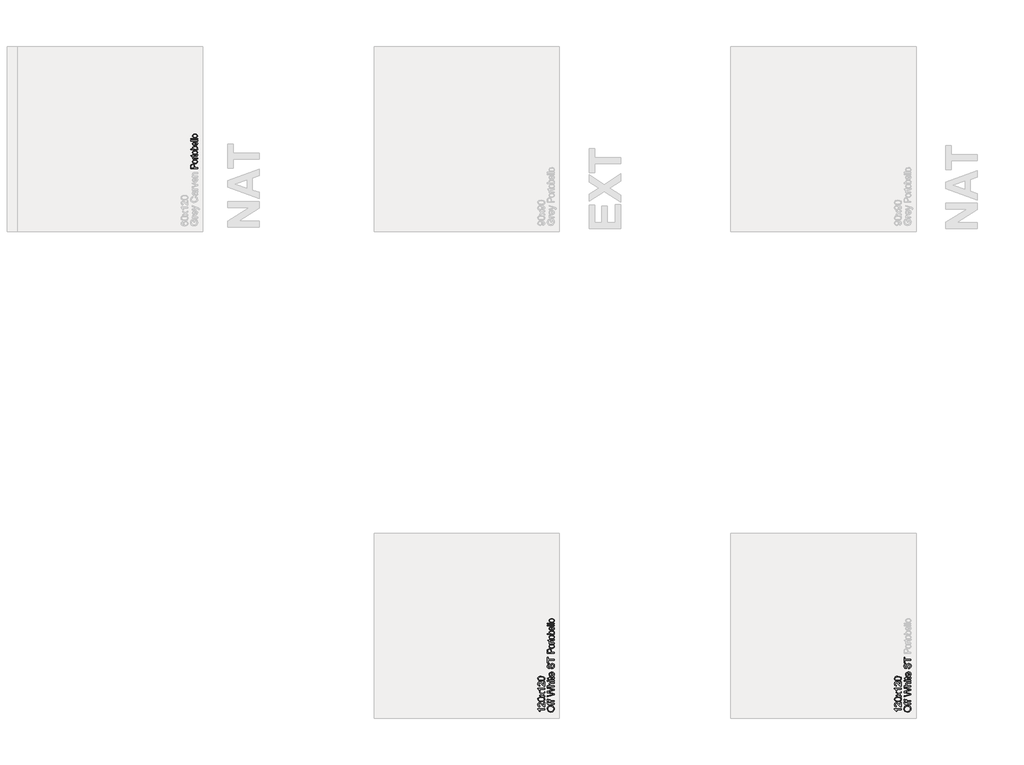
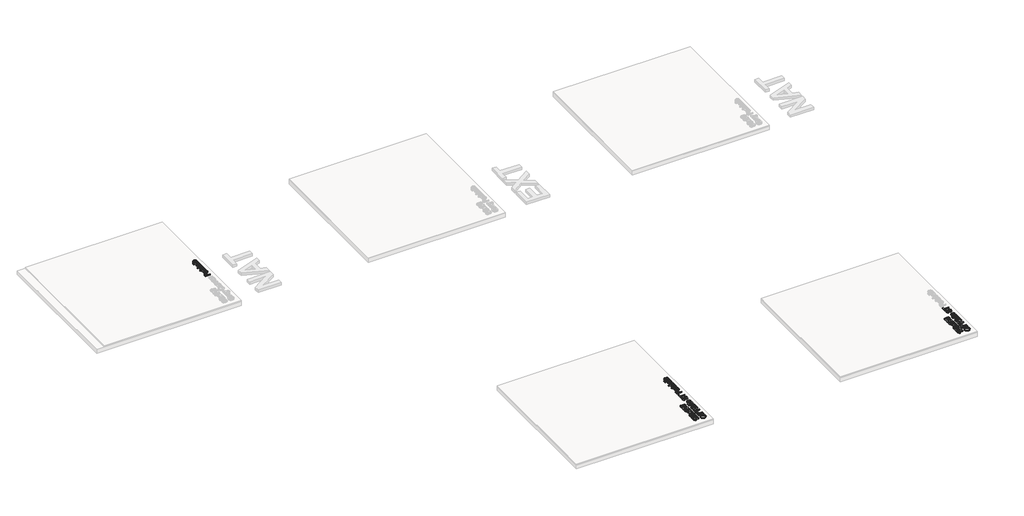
# One storey, part 8 of 12: 6 proxies.
"""IFC4 building model written with IfcOpenShell, lengths in millimetres."""

from ifc_helpers import new_model, si_unit, frame, origin, origin_with_axes, place, context, project, spatial, polyline, outline, extrude, element, save

model = new_model("IFC4")

# Units and contexts
model_context = context("Model", 3, world=origin())
ifc_project = project(units=[si_unit("LENGTHUNIT", "METRE", prefix="MILLI")], contexts=[model_context])

# Site, building, storey
site = spatial("IfcSite", under=ifc_project)
building = spatial("IfcBuilding", under=site)
storey = spatial("IfcBuildingStorey", under=building, Name="PORTOBELLO - SHOWROOM", Elevation=0.0)

# Proxies
placement = place(None, origin())
element("IfcBuildingElementProxy", 1, Name="10mm Arial", ObjectType="10mm Arial", at=placement, inside=storey, context=model_context, shape_type="SweptSolid", body=[
    extrude(outline(polyline([(-5733.4581519, 2943.9024608), (-5755.672093, 2947.250187), (-5772.4781688, 2957.2933654), (-5783.0547762, 2972.6279133), (-5786.580312, 2991.8497475), (-5784.924843, 3005.0260543), (-5779.958436, 3016.8411977), (-5772.030579, 3026.6513843), (-5761.4907599, 3033.8128204), (-5748.847882, 3038.1906162), (-5734.6108488, 3039.6498814), (-5720.1837432, 3038.1139741), (-5707.3630557, 3033.5062521), (-5696.8048424, 3026.0811672), (-5689.1651596, 3016.093171), (-5684.5298465, 3004.3791951), (-5682.9847421, 2991.7761711), (-5684.6923277, 2978.3975292), (-5689.8150845, 2966.5149408), (-5697.8900943, 2956.7292797), (-5708.4544389, 2949.6414199), (-5733.4581519, 2943.9024608)]), holes=[polyline([(-5733.3355245, 2956.4594996), (-5717.620832, 2958.9702942), (-5705.646273, 2966.502678), (-5698.0679039, 2977.8242464), (-5695.5417809, 2991.7025947), (-5698.0924294, 3005.7832781), (-5705.7443749, 3017.1232406), (-5718.0868158, 3024.6004421), (-5734.7089506, 3027.0928427), (-5755.4329697, 3022.8254115), (-5769.1549681, 3010.3542119), (-5774.0232732, 2991.9233239), (-5771.6780255, 2978.4159233), (-5764.6422823, 2966.9318737), (-5752.1250974, 2959.0775931), (-5733.3355245, 2956.4594996)])]), frame((0.0, 0.0, 17.0), z_axis=(0.0, 0.0, 1.0), x_axis=(1.0, 0.0, 0.0)), (0.0, 0.0, 1.0), 20.0),
    extrude(outline(polyline([(-5684.554372, 3099.2958156), (-5745.769936, 3099.2958156), (-5745.769936, 3088.3084066), (-5758.3269747, 3088.3084066), (-5758.3269747, 3099.2958156), (-5765.758191, 3099.2958156), (-5776.2305652, 3100.6201908), (-5783.7108324, 3107.0458629), (-5786.580312, 3119.7010036), (-5785.2068858, 3131.1543964), (-5773.434662, 3129.3149864), (-5774.0232732, 3122.0799738), (-5771.9386085, 3114.1705109), (-5764.1640357, 3111.8528543), (-5758.3269747, 3111.8528543), (-5758.3269747, 3125.979523), (-5745.769936, 3125.979523), (-5745.769936, 3111.8528543), (-5684.554372, 3111.8528543), (-5684.554372, 3099.2958156)])), frame((0.0, 0.0, 17.0), z_axis=(0.0, 0.0, 1.0), x_axis=(1.0, 0.0, 0.0)), (0.0, 0.0, 1.0), 20.0),
    extrude(outline(polyline([(-5684.554372, 3058.4854396), (-5745.769936, 3058.4854396), (-5745.769936, 3047.4980307), (-5758.3269747, 3047.4980307), (-5758.3269747, 3058.4854396), (-5765.758191, 3058.4854396), (-5776.2305652, 3059.8098148), (-5783.7108324, 3066.2354869), (-5786.580312, 3078.8906276), (-5785.2068858, 3090.3440204), (-5773.434662, 3088.5046104), (-5774.0232732, 3081.2695978), (-5771.9386085, 3073.3601349), (-5764.1640357, 3071.0424783), (-5758.3269747, 3071.0424783), (-5758.3269747, 3085.169147), (-5745.769936, 3085.169147), (-5745.769936, 3071.0424783), (-5684.554372, 3071.0424783), (-5684.554372, 3058.4854396)])), frame((0.0, 0.0, 17.0), z_axis=(0.0, 0.0, 1.0), x_axis=(1.0, 0.0, 0.0)), (0.0, 0.0, 1.0), 20.0),
    extrude(outline(polyline([(-5684.554372, 3195.7544747), (-5785.0106821, 3168.3595288), (-5785.0106821, 3181.308975), (-5718.9881267, 3197.2014772), (-5698.6074642, 3202.1065705), (-5716.6336819, 3207.3550203), (-5785.0106821, 3227.269699), (-5785.0106821, 3245.9335788), (-5735.4447146, 3260.403604), (-5698.6074642, 3271.1702837), (-5718.3995155, 3275.9282242), (-5785.0106821, 3291.9433537), (-5785.0106821, 3304.9173254), (-5684.554372, 3277.546905), (-5684.554372, 3264.1069494), (-5762.0548456, 3239.998416), (-5772.8705763, 3236.6384271), (-5759.8475536, 3232.8615053), (-5684.554372, 3210.9112129), (-5684.554372, 3195.7544747)])), frame((0.0, 0.0, 17.0), z_axis=(0.0, 0.0, 1.0), x_axis=(1.0, 0.0, 0.0)), (0.0, 0.0, 1.0), 20.0),
    extrude(outline(polyline([(-5684.554372, 3315.9047343), (-5785.0106821, 3315.9047343), (-5785.0106821, 3328.4617731), (-5748.0753298, 3328.4617731), (-5756.9412859, 3338.2535655), (-5759.8966046, 3350.3139636), (-5756.6715057, 3364.4161068), (-5747.7564987, 3372.9754945), (-5731.2508599, 3375.5506685), (-5684.554372, 3375.5506685), (-5684.554372, 3362.9936297), (-5729.9510102, 3362.9936297), (-5743.194762, 3358.9959787), (-5747.3395658, 3347.6652132), (-5744.5436626, 3337.3767801), (-5736.9652935, 3330.5096495), (-5723.7460672, 3328.4617731), (-5684.554372, 3328.4617731), (-5684.554372, 3315.9047343)])), frame((0.0, 0.0, 17.0), z_axis=(0.0, 0.0, 1.0), x_axis=(1.0, 0.0, 0.0)), (0.0, 0.0, 1.0), 20.0),
    extrude(outline(polyline([(-5772.4536433, 3392.8165968), (-5785.0106821, 3392.8165968), (-5785.0106821, 3405.3736356), (-5772.4536433, 3405.3736356), (-5772.4536433, 3392.8165968)])), frame((0.0, 0.0, 17.0), z_axis=(0.0, 0.0, 1.0), x_axis=(1.0, 0.0, 0.0)), (0.0, 0.0, 1.0), 20.0),
    extrude(outline(polyline([(-5684.554372, 3392.8165968), (-5758.3269747, 3392.8165968), (-5758.3269747, 3405.3736356), (-5684.554372, 3405.3736356), (-5684.554372, 3392.8165968)])), frame((0.0, 0.0, 17.0), z_axis=(0.0, 0.0, 1.0), x_axis=(1.0, 0.0, 0.0)), (0.0, 0.0, 1.0), 20.0),
    extrude(outline(polyline([(-5695.0267461, 3450.8929011), (-5684.18649, 3452.4625309), (-5682.9847421, 3443.0692773), (-5685.0694068, 3432.5478523), (-5690.5385857, 3427.2994025), (-5704.7878817, 3425.7788236), (-5745.769936, 3425.7788236), (-5745.769936, 3416.3610445), (-5758.3269747, 3416.3610445), (-5758.3269747, 3425.7788236), (-5776.2550906, 3425.7788236), (-5783.637256, 3438.3358623), (-5758.3269747, 3438.3358623), (-5758.3269747, 3450.8929011), (-5745.769936, 3450.8929011), (-5745.769936, 3438.3358623), (-5705.1557637, 3438.3358623), (-5698.6810406, 3438.9980499), (-5696.3879095, 3441.1440282), (-5695.5417809, 3445.4237221), (-5695.0267461, 3450.8929011)])), frame((0.0, 0.0, 17.0), z_axis=(0.0, 0.0, 1.0), x_axis=(1.0, 0.0, 0.0)), (0.0, 0.0, 1.0), 20.0),
    extrude(outline(polyline([(-5706.5291898, 3515.100572), (-5704.95956, 3527.4123561), (-5695.6828023, 3522.9763124), (-5688.7482267, 3515.8976496), (-5684.4256133, 3506.3357835), (-5682.9847421, 3494.4501293), (-5685.4710113, 3479.7164554), (-5692.9298187, 3468.3795586), (-5704.8767865, 3461.1506774), (-5720.8275367, 3458.7410503), (-5737.3147814, 3461.1752029), (-5749.6449596, 3468.4776605), (-5757.3336933, 3479.6612731), (-5759.8966046, 3493.7388908), (-5757.3398247, 3507.3781158), (-5749.6694851, 3518.2766199), (-5737.3638324, 3525.4227276), (-5720.9011131, 3527.8047636), (-5717.5165987, 3527.7311872), (-5717.5165987, 3471.2980891), (-5708.1172137, 3473.4716585), (-5701.2071636, 3478.5208389), (-5696.9581266, 3485.8079681), (-5695.5417809, 3494.695384), (-5698.1660058, 3507.0071681), (-5706.5291898, 3515.100572)]), holes=[polyline([(-5730.0736375, 3471.2980891), (-5730.0736375, 3515.2477248), (-5741.4534539, 3510.2200042), (-5745.8680378, 3502.8991525), (-5747.3395658, 3493.6898399), (-5742.642939, 3478.2265333), (-5737.1523002, 3473.361294), (-5730.0736375, 3471.2980891)])]), frame((0.0, 0.0, 17.0), z_axis=(0.0, 0.0, 1.0), x_axis=(1.0, 0.0, 0.0)), (0.0, 0.0, 1.0), 20.0),
    extrude(outline(polyline([(-5719.0862286, 3576.4632888), (-5719.0862286, 3589.0203276), (-5706.5169271, 3593.0670295), (-5698.570676, 3602.9507924), (-5695.5417809, 3618.0094288), (-5697.834912, 3631.1305533), (-5704.1379568, 3639.6041019), (-5712.5624545, 3642.3877423), (-5720.398341, 3640.3030777), (-5726.1005119, 3631.7682154), (-5730.8952406, 3613.4844802), (-5737.0879209, 3593.8027935), (-5746.4321235, 3583.1219529), (-5758.9155859, 3579.6025485), (-5773.1280937, 3583.9558188), (-5783.1590094, 3596.6722731), (-5786.580312, 3615.287102), (-5782.9995939, 3635.1527297), (-5772.4781688, 3648.3964816), (-5756.7573449, 3653.3751512), (-5756.7573449, 3640.8181125), (-5764.2498748, 3638.5127186), (-5769.6577402, 3633.7057272), (-5774.0232732, 3615.7776113), (-5769.7067911, 3597.8004445), (-5759.2834679, 3592.1595872), (-5750.5769274, 3596.1572383), (-5743.562644, 3616.6605281), (-5737.2595991, 3638.8806006), (-5727.0815306, 3651.0329692), (-5712.8812856, 3654.9447811), (-5697.8594375, 3650.444358), (-5686.896554, 3637.4949118), (-5682.9847421, 3618.4999381), (-5687.2031223, 3596.0713991), (-5699.9073139, 3581.8834168), (-5719.0862286, 3576.4632888)])), frame((0.0, 0.0, 17.0), z_axis=(0.0, 0.0, 1.0), x_axis=(1.0, 0.0, 0.0)), (0.0, 0.0, 1.0), 20.0),
    extrude(outline(polyline([(-5684.554372, 3698.8944168), (-5772.4536433, 3698.8944168), (-5772.4536433, 3665.93219), (-5785.0106821, 3665.93219), (-5785.0106821, 3744.4136823), (-5772.4536433, 3744.4136823), (-5772.4536433, 3711.4514555), (-5684.554372, 3711.4514555), (-5684.554372, 3698.8944168)])), frame((0.0, 0.0, 17.0), z_axis=(0.0, 0.0, 1.0), x_axis=(1.0, 0.0, 0.0)), (0.0, 0.0, 1.0), 20.0),
])
element("IfcBuildingElementProxy", 2, Name="10mm Arial", ObjectType="10mm Arial", at=placement, inside=storey, context=model_context, shape_type="SweptSolid", body=[
    extrude(outline(polyline([(-5824.554372, 2990.9913562), (-5824.554372, 2978.4343174), (-5902.8396605, 2978.4343174), (-5894.3661119, 2966.5394662), (-5888.0262789, 2953.3202399), (-5899.8966046, 2953.3202399), (-5911.6443029, 2971.7266024), (-5925.0106821, 2982.8979523), (-5925.0106821, 2990.9913562), (-5824.554372, 2990.9913562)])), frame((0.0, 0.0, 17.0), z_axis=(0.0, 0.0, 1.0), x_axis=(1.0, 0.0, 0.0)), (0.0, 0.0, 1.0), 20.0),
    extrude(outline(polyline([(-5837.1114107, 3085.169147), (-5824.554372, 3085.169147), (-5824.554372, 3019.2446934), (-5833.2118616, 3020.5935941), (-5846.5414525, 3028.2332768), (-5861.0973168, 3043.9663635), (-5882.0175396, 3065.634613), (-5896.2423101, 3071.0424783), (-5907.7570165, 3065.9289186), (-5912.4536433, 3052.5748022), (-5907.8673811, 3038.6566), (-5895.187715, 3033.371362), (-5896.7573449, 3020.8143233), (-5908.9035821, 3023.8585468), (-5917.7756695, 3030.4405688), (-5923.201929, 3040.2170328), (-5925.0106821, 3052.8445823), (-5922.9995939, 3065.5641023), (-5916.9663291, 3075.3221722), (-5907.9532203, 3081.5301809), (-5897.0025995, 3083.5995171), (-5885.0954856, 3081.3676997), (-5872.7837015, 3073.9487461), (-5855.5790869, 3055.9593165), (-5843.5002947, 3041.5138169), (-5837.1114107, 3035.8484341), (-5837.1114107, 3085.169147)])), frame((0.0, 0.0, 17.0), z_axis=(0.0, 0.0, 1.0), x_axis=(1.0, 0.0, 0.0)), (0.0, 0.0, 1.0), 20.0),
    extrude(outline(polyline([(-5873.9731866, 3097.7261857), (-5902.8764487, 3101.4172684), (-5919.5415031, 3112.3801519), (-5925.0106821, 3130.6884125), (-5921.7733205, 3145.3546414), (-5912.4413806, 3155.483659), (-5897.578948, 3161.3697709), (-5873.9731866, 3163.6506393), (-5845.1925519, 3159.9963448), (-5828.4907093, 3149.0702495), (-5824.3612339, 3140.8388899), (-5822.9847421, 3130.6884125), (-5825.3759751, 3117.6408644), (-5832.549674, 3107.732576), (-5849.5396908, 3100.2277833), (-5873.9731866, 3097.7261857)]), holes=[polyline([(-5873.9977121, 3110.2832245), (-5854.2455147, 3111.7547525), (-5842.8135817, 3116.1693364), (-5837.3597311, 3122.7421614), (-5835.5417809, 3130.6884125), (-5837.3658624, 3138.6346636), (-5842.8381071, 3145.2074886), (-5854.2761715, 3149.6220725), (-5873.9977121, 3151.0936005), (-5893.3053855, 3149.6711234), (-5904.8262233, 3145.4036923), (-5910.5467883, 3138.8431301), (-5912.4536433, 3130.5412597), (-5910.7736489, 3122.6808477), (-5905.7336656, 3116.3655401), (-5893.4954579, 3111.8038034), (-5873.9977121, 3110.2832245)])]), frame((0.0, 0.0, 17.0), z_axis=(0.0, 0.0, 1.0), x_axis=(1.0, 0.0, 0.0)), (0.0, 0.0, 1.0), 20.0),
    extrude(outline(polyline([(-5824.554372, 3169.9291586), (-5861.6614025, 3196.7600188), (-5898.3269747, 3171.4987885), (-5898.3269747, 3186.5574248), (-5880.6441135, 3198.7465816), (-5872.3299804, 3204.4610153), (-5879.14806, 3209.4151595), (-5898.3269747, 3223.2965734), (-5898.3269747, 3238.4042607), (-5861.6368771, 3211.8677061), (-5824.554372, 3237.423242), (-5824.554372, 3222.3400802), (-5846.8725463, 3206.9380874), (-5850.9682992, 3204.1421842), (-5824.554372, 3185.0368459), (-5824.554372, 3169.9291586)])), frame((0.0, 0.0, 17.0), z_axis=(0.0, 0.0, 1.0), x_axis=(1.0, 0.0, 0.0)), (0.0, 0.0, 1.0), 20.0),
    extrude(outline(polyline([(-5824.554372, 3292.3602866), (-5824.554372, 3279.8032479), (-5902.8396605, 3279.8032479), (-5894.3661119, 3267.9083967), (-5888.0262789, 3254.6891703), (-5899.8966046, 3254.6891703), (-5911.6443029, 3273.0955328), (-5925.0106821, 3284.2668827), (-5925.0106821, 3292.3602866), (-5824.554372, 3292.3602866)])), frame((0.0, 0.0, 17.0), z_axis=(0.0, 0.0, 1.0), x_axis=(1.0, 0.0, 0.0)), (0.0, 0.0, 1.0), 20.0),
    extrude(outline(polyline([(-5837.1114107, 3386.5380774), (-5824.554372, 3386.5380774), (-5824.554372, 3320.6136239), (-5833.2118616, 3321.9625245), (-5846.5414525, 3329.6022073), (-5861.0973168, 3345.3352939), (-5882.0175396, 3367.0035435), (-5896.2423101, 3372.4114088), (-5907.7570165, 3367.2978491), (-5912.4536433, 3353.9437326), (-5907.8673811, 3340.0255305), (-5895.187715, 3334.7402925), (-5896.7573449, 3322.1832537), (-5908.9035821, 3325.2274772), (-5917.7756695, 3331.8094993), (-5923.201929, 3341.5859633), (-5925.0106821, 3354.2135128), (-5922.9995939, 3366.9330327), (-5916.9663291, 3376.6911027), (-5907.9532203, 3382.8991113), (-5897.0025995, 3384.9684476), (-5885.0954856, 3382.7366301), (-5872.7837015, 3375.3176766), (-5855.5790869, 3357.328247), (-5843.5002947, 3342.8827473), (-5837.1114107, 3337.2173646), (-5837.1114107, 3386.5380774)])), frame((0.0, 0.0, 17.0), z_axis=(0.0, 0.0, 1.0), x_axis=(1.0, 0.0, 0.0)), (0.0, 0.0, 1.0), 20.0),
    extrude(outline(polyline([(-5873.9731866, 3399.0951162), (-5902.8764487, 3402.7861989), (-5919.5415031, 3413.7490823), (-5925.0106821, 3432.0573429), (-5921.7733205, 3446.7235718), (-5912.4413806, 3456.8525894), (-5897.578948, 3462.7387013), (-5873.9731866, 3465.0195697), (-5845.1925519, 3461.3652752), (-5828.4907093, 3450.43918), (-5824.3612339, 3442.2078203), (-5822.9847421, 3432.0573429), (-5825.3759751, 3419.0097948), (-5832.549674, 3409.1015064), (-5849.5396908, 3401.5967137), (-5873.9731866, 3399.0951162)]), holes=[polyline([(-5873.9977121, 3411.6521549), (-5854.2455147, 3413.1236829), (-5842.8135817, 3417.5382669), (-5837.3597311, 3424.1110918), (-5835.5417809, 3432.0573429), (-5837.3658624, 3440.003594), (-5842.8381071, 3446.576419), (-5854.2761715, 3450.991003), (-5873.9977121, 3452.4625309), (-5893.3053855, 3451.0400539), (-5904.8262233, 3446.7726227), (-5910.5467883, 3440.2120605), (-5912.4536433, 3431.9101901), (-5910.7736489, 3424.0497782), (-5905.7336656, 3417.7344706), (-5893.4954579, 3413.1727339), (-5873.9977121, 3411.6521549)])]), frame((0.0, 0.0, 17.0), z_axis=(0.0, 0.0, 1.0), x_axis=(1.0, 0.0, 0.0)), (0.0, 0.0, 1.0), 20.0),
])
element("IfcBuildingElementProxy", 3, Name="10mm Arial", ObjectType="10mm Arial", at=placement, inside=storey, context=model_context, shape_type="SweptSolid", body=[
    extrude(outline(polyline([(-10933.4831679, 2943.9024608), (-10955.6971091, 2947.250187), (-10972.5031849, 2957.2933654), (-10983.0797922, 2972.6279133), (-10986.605328, 2991.8497475), (-10984.9498591, 3005.0260543), (-10979.9834521, 3016.8411977), (-10972.0555951, 3026.6513843), (-10961.515776, 3033.8128204), (-10948.8728981, 3038.1906162), (-10934.6358649, 3039.6498814), (-10920.2087593, 3038.1139741), (-10907.3880717, 3033.5062521), (-10896.8298585, 3026.0811672), (-10889.1901757, 3016.093171), (-10884.5548626, 3004.3791951), (-10883.0097582, 2991.7761711), (-10884.7173438, 2978.3975292), (-10889.8401006, 2966.5149408), (-10897.9151104, 2956.7292797), (-10908.479455, 2949.6414199), (-10933.4831679, 2943.9024608)]), holes=[polyline([(-10933.3605406, 2956.4594996), (-10917.645848, 2958.9702942), (-10905.6712891, 2966.502678), (-10898.09292, 2977.8242464), (-10895.566797, 2991.7025947), (-10898.1174455, 3005.7832781), (-10905.769391, 3017.1232406), (-10918.1118319, 3024.6004421), (-10934.7339667, 3027.0928427), (-10955.4579858, 3022.8254115), (-10969.1799842, 3010.3542119), (-10974.0482893, 2991.9233239), (-10971.7030415, 2978.4159233), (-10964.6672984, 2966.9318737), (-10952.1501135, 2959.0775931), (-10933.3605406, 2956.4594996)])]), frame((0.0, 0.0, 17.0), z_axis=(0.0, 0.0, 1.0), x_axis=(1.0, 0.0, 0.0)), (0.0, 0.0, 1.0), 20.0),
    extrude(outline(polyline([(-10884.579388, 3099.2958156), (-10945.794952, 3099.2958156), (-10945.794952, 3088.3084066), (-10958.3519908, 3088.3084066), (-10958.3519908, 3099.2958156), (-10965.7832071, 3099.2958156), (-10976.2555812, 3100.6201908), (-10983.7358485, 3107.0458629), (-10986.605328, 3119.7010036), (-10985.2319019, 3131.1543964), (-10973.4596781, 3129.3149864), (-10974.0482893, 3122.0799738), (-10971.9636246, 3114.1705109), (-10964.1890518, 3111.8528543), (-10958.3519908, 3111.8528543), (-10958.3519908, 3125.979523), (-10945.794952, 3125.979523), (-10945.794952, 3111.8528543), (-10884.579388, 3111.8528543), (-10884.579388, 3099.2958156)])), frame((0.0, 0.0, 17.0), z_axis=(0.0, 0.0, 1.0), x_axis=(1.0, 0.0, 0.0)), (0.0, 0.0, 1.0), 20.0),
    extrude(outline(polyline([(-10884.579388, 3058.4854396), (-10945.794952, 3058.4854396), (-10945.794952, 3047.4980307), (-10958.3519908, 3047.4980307), (-10958.3519908, 3058.4854396), (-10965.7832071, 3058.4854396), (-10976.2555812, 3059.8098148), (-10983.7358485, 3066.2354869), (-10986.605328, 3078.8906276), (-10985.2319019, 3090.3440204), (-10973.4596781, 3088.5046104), (-10974.0482893, 3081.2695978), (-10971.9636246, 3073.3601349), (-10964.1890518, 3071.0424783), (-10958.3519908, 3071.0424783), (-10958.3519908, 3085.169147), (-10945.794952, 3085.169147), (-10945.794952, 3071.0424783), (-10884.579388, 3071.0424783), (-10884.579388, 3058.4854396)])), frame((0.0, 0.0, 17.0), z_axis=(0.0, 0.0, 1.0), x_axis=(1.0, 0.0, 0.0)), (0.0, 0.0, 1.0), 20.0),
    extrude(outline(polyline([(-10884.579388, 3195.7544747), (-10985.0356982, 3168.3595288), (-10985.0356982, 3181.308975), (-10919.0131428, 3197.2014772), (-10898.6324803, 3202.1065705), (-10916.658698, 3207.3550203), (-10985.0356982, 3227.269699), (-10985.0356982, 3245.9335788), (-10935.4697307, 3260.403604), (-10898.6324803, 3271.1702837), (-10918.4245316, 3275.9282242), (-10985.0356982, 3291.9433537), (-10985.0356982, 3304.9173254), (-10884.579388, 3277.546905), (-10884.579388, 3264.1069494), (-10962.0798617, 3239.998416), (-10972.8955923, 3236.6384271), (-10959.8725697, 3232.8615053), (-10884.579388, 3210.9112129), (-10884.579388, 3195.7544747)])), frame((0.0, 0.0, 17.0), z_axis=(0.0, 0.0, 1.0), x_axis=(1.0, 0.0, 0.0)), (0.0, 0.0, 1.0), 20.0),
    extrude(outline(polyline([(-10884.579388, 3315.9047343), (-10985.0356982, 3315.9047343), (-10985.0356982, 3328.4617731), (-10948.1003459, 3328.4617731), (-10956.966302, 3338.2535655), (-10959.9216207, 3350.3139636), (-10956.6965218, 3364.4161068), (-10947.7815148, 3372.9754945), (-10931.275876, 3375.5506685), (-10884.579388, 3375.5506685), (-10884.579388, 3362.9936297), (-10929.9760262, 3362.9936297), (-10943.2197781, 3358.9959787), (-10947.3645819, 3347.6652132), (-10944.5686787, 3337.3767801), (-10936.9903096, 3330.5096495), (-10923.7710833, 3328.4617731), (-10884.579388, 3328.4617731), (-10884.579388, 3315.9047343)])), frame((0.0, 0.0, 17.0), z_axis=(0.0, 0.0, 1.0), x_axis=(1.0, 0.0, 0.0)), (0.0, 0.0, 1.0), 20.0),
    extrude(outline(polyline([(-10972.4786594, 3392.8165968), (-10985.0356982, 3392.8165968), (-10985.0356982, 3405.3736356), (-10972.4786594, 3405.3736356), (-10972.4786594, 3392.8165968)])), frame((0.0, 0.0, 17.0), z_axis=(0.0, 0.0, 1.0), x_axis=(1.0, 0.0, 0.0)), (0.0, 0.0, 1.0), 20.0),
    extrude(outline(polyline([(-10884.579388, 3392.8165968), (-10958.3519908, 3392.8165968), (-10958.3519908, 3405.3736356), (-10884.579388, 3405.3736356), (-10884.579388, 3392.8165968)])), frame((0.0, 0.0, 17.0), z_axis=(0.0, 0.0, 1.0), x_axis=(1.0, 0.0, 0.0)), (0.0, 0.0, 1.0), 20.0),
    extrude(outline(polyline([(-10895.0517622, 3450.8929011), (-10884.211506, 3452.4625309), (-10883.0097582, 3443.0692773), (-10885.0944228, 3432.5478523), (-10890.5636018, 3427.2994025), (-10904.8128978, 3425.7788236), (-10945.794952, 3425.7788236), (-10945.794952, 3416.3610445), (-10958.3519908, 3416.3610445), (-10958.3519908, 3425.7788236), (-10976.2801067, 3425.7788236), (-10983.6622721, 3438.3358623), (-10958.3519908, 3438.3358623), (-10958.3519908, 3450.8929011), (-10945.794952, 3450.8929011), (-10945.794952, 3438.3358623), (-10905.1807798, 3438.3358623), (-10898.7060567, 3438.9980499), (-10896.4129256, 3441.1440282), (-10895.566797, 3445.4237221), (-10895.0517622, 3450.8929011)])), frame((0.0, 0.0, 17.0), z_axis=(0.0, 0.0, 1.0), x_axis=(1.0, 0.0, 0.0)), (0.0, 0.0, 1.0), 20.0),
    extrude(outline(polyline([(-10906.5542059, 3515.100572), (-10904.984576, 3527.4123561), (-10895.7078184, 3522.9763124), (-10888.7732428, 3515.8976496), (-10884.4506293, 3506.3357835), (-10883.0097582, 3494.4501293), (-10885.4960273, 3479.7164554), (-10892.9548348, 3468.3795586), (-10904.9018026, 3461.1506774), (-10920.8525528, 3458.7410503), (-10937.3397975, 3461.1752029), (-10949.6699757, 3468.4776605), (-10957.3587094, 3479.6612731), (-10959.9216207, 3493.7388908), (-10957.3648408, 3507.3781158), (-10949.6945012, 3518.2766199), (-10937.3888484, 3525.4227276), (-10920.9261292, 3527.8047636), (-10917.5416148, 3527.7311872), (-10917.5416148, 3471.2980891), (-10908.1422298, 3473.4716585), (-10901.2321797, 3478.5208389), (-10896.9831426, 3485.8079681), (-10895.566797, 3494.695384), (-10898.1910219, 3507.0071681), (-10906.5542059, 3515.100572)]), holes=[polyline([(-10930.0986536, 3471.2980891), (-10930.0986536, 3515.2477248), (-10941.47847, 3510.2200042), (-10945.8930539, 3502.8991525), (-10947.3645819, 3493.6898399), (-10942.6679551, 3478.2265333), (-10937.1773163, 3473.361294), (-10930.0986536, 3471.2980891)])]), frame((0.0, 0.0, 17.0), z_axis=(0.0, 0.0, 1.0), x_axis=(1.0, 0.0, 0.0)), (0.0, 0.0, 1.0), 20.0),
    extrude(outline(polyline([(-10919.1112447, 3576.4632888), (-10919.1112447, 3589.0203276), (-10906.5419432, 3593.0670295), (-10898.5956921, 3602.9507924), (-10895.566797, 3618.0094288), (-10897.8599281, 3631.1305533), (-10904.1629729, 3639.6041019), (-10912.5874706, 3642.3877423), (-10920.4233571, 3640.3030777), (-10926.125528, 3631.7682154), (-10930.9202567, 3613.4844802), (-10937.112937, 3593.8027935), (-10946.4571396, 3583.1219529), (-10958.940602, 3579.6025485), (-10973.1531097, 3583.9558188), (-10983.1840255, 3596.6722731), (-10986.605328, 3615.287102), (-10983.0246099, 3635.1527297), (-10972.5031849, 3648.3964816), (-10956.782361, 3653.3751512), (-10956.782361, 3640.8181125), (-10964.2748909, 3638.5127186), (-10969.6827563, 3633.7057272), (-10974.0482893, 3615.7776113), (-10969.7318072, 3597.8004445), (-10959.308484, 3592.1595872), (-10950.6019434, 3596.1572383), (-10943.5876601, 3616.6605281), (-10937.2846152, 3638.8806006), (-10927.1065467, 3651.0329692), (-10912.9063017, 3654.9447811), (-10897.8844535, 3650.444358), (-10886.9215701, 3637.4949118), (-10883.0097582, 3618.4999381), (-10887.2281384, 3596.0713991), (-10899.93233, 3581.8834168), (-10919.1112447, 3576.4632888)])), frame((0.0, 0.0, 17.0), z_axis=(0.0, 0.0, 1.0), x_axis=(1.0, 0.0, 0.0)), (0.0, 0.0, 1.0), 20.0),
    extrude(outline(polyline([(-10884.579388, 3698.8944168), (-10972.4786594, 3698.8944168), (-10972.4786594, 3665.93219), (-10985.0356982, 3665.93219), (-10985.0356982, 3744.4136823), (-10972.4786594, 3744.4136823), (-10972.4786594, 3711.4514555), (-10884.579388, 3711.4514555), (-10884.579388, 3698.8944168)])), frame((0.0, 0.0, 17.0), z_axis=(0.0, 0.0, 1.0), x_axis=(1.0, 0.0, 0.0)), (0.0, 0.0, 1.0), 20.0),
])
element("IfcBuildingElementProxy", 4, Name="10mm Arial", ObjectType="10mm Arial", at=placement, inside=storey, context=model_context, shape_type="SweptSolid", body=[
    extrude(outline(polyline([(-11024.579388, 2990.9913562), (-11024.579388, 2978.4343174), (-11102.8646766, 2978.4343174), (-11094.391128, 2966.5394662), (-11088.0512949, 2953.3202399), (-11099.9216207, 2953.3202399), (-11111.669319, 2971.7266024), (-11125.0356982, 2982.8979523), (-11125.0356982, 2990.9913562), (-11024.579388, 2990.9913562)])), frame((0.0, 0.0, 17.0), z_axis=(0.0, 0.0, 1.0), x_axis=(1.0, 0.0, 0.0)), (0.0, 0.0, 1.0), 20.0),
    extrude(outline(polyline([(-11037.1364268, 3085.169147), (-11024.579388, 3085.169147), (-11024.579388, 3019.2446934), (-11033.2368777, 3020.5935941), (-11046.5664686, 3028.2332768), (-11061.1223329, 3043.9663635), (-11082.0425557, 3065.634613), (-11096.2673262, 3071.0424783), (-11107.7820326, 3065.9289186), (-11112.4786594, 3052.5748022), (-11107.8923972, 3038.6566), (-11095.2127311, 3033.371362), (-11096.782361, 3020.8143233), (-11108.9285982, 3023.8585468), (-11117.8006856, 3030.4405688), (-11123.226945, 3040.2170328), (-11125.0356982, 3052.8445823), (-11123.0246099, 3065.5641023), (-11116.9913452, 3075.3221722), (-11107.9782363, 3081.5301809), (-11097.0276156, 3083.5995171), (-11085.1205017, 3081.3676997), (-11072.8087176, 3073.9487461), (-11055.604103, 3055.9593165), (-11043.5253108, 3041.5138169), (-11037.1364268, 3035.8484341), (-11037.1364268, 3085.169147)])), frame((0.0, 0.0, 17.0), z_axis=(0.0, 0.0, 1.0), x_axis=(1.0, 0.0, 0.0)), (0.0, 0.0, 1.0), 20.0),
    extrude(outline(polyline([(-11073.9982027, 3097.7261857), (-11102.9014648, 3101.4172684), (-11119.5665192, 3112.3801519), (-11125.0356982, 3130.6884125), (-11121.7983366, 3145.3546414), (-11112.4663967, 3155.483659), (-11097.6039641, 3161.3697709), (-11073.9982027, 3163.6506393), (-11045.217568, 3159.9963448), (-11028.5157254, 3149.0702495), (-11024.38625, 3140.8388899), (-11023.0097582, 3130.6884125), (-11025.4009912, 3117.6408644), (-11032.5746901, 3107.732576), (-11049.5647069, 3100.2277833), (-11073.9982027, 3097.7261857)]), holes=[polyline([(-11074.0227282, 3110.2832245), (-11054.2705307, 3111.7547525), (-11042.8385977, 3116.1693364), (-11037.3847472, 3122.7421614), (-11035.566797, 3130.6884125), (-11037.3908785, 3138.6346636), (-11042.8631232, 3145.2074886), (-11054.3011876, 3149.6220725), (-11074.0227282, 3151.0936005), (-11093.3304016, 3149.6711234), (-11104.8512394, 3145.4036923), (-11110.5718044, 3138.8431301), (-11112.4786594, 3130.5412597), (-11110.798665, 3122.6808477), (-11105.7586816, 3116.3655401), (-11093.5204739, 3111.8038034), (-11074.0227282, 3110.2832245)])]), frame((0.0, 0.0, 17.0), z_axis=(0.0, 0.0, 1.0), x_axis=(1.0, 0.0, 0.0)), (0.0, 0.0, 1.0), 20.0),
    extrude(outline(polyline([(-11024.579388, 3169.9291586), (-11061.6864186, 3196.7600188), (-11098.3519908, 3171.4987885), (-11098.3519908, 3186.5574248), (-11080.6691296, 3198.7465816), (-11072.3549965, 3204.4610153), (-11079.1730761, 3209.4151595), (-11098.3519908, 3223.2965734), (-11098.3519908, 3238.4042607), (-11061.6618932, 3211.8677061), (-11024.579388, 3237.423242), (-11024.579388, 3222.3400802), (-11046.8975624, 3206.9380874), (-11050.9933153, 3204.1421842), (-11024.579388, 3185.0368459), (-11024.579388, 3169.9291586)])), frame((0.0, 0.0, 17.0), z_axis=(0.0, 0.0, 1.0), x_axis=(1.0, 0.0, 0.0)), (0.0, 0.0, 1.0), 20.0),
    extrude(outline(polyline([(-11024.579388, 3292.3602866), (-11024.579388, 3279.8032479), (-11102.8646766, 3279.8032479), (-11094.391128, 3267.9083967), (-11088.0512949, 3254.6891703), (-11099.9216207, 3254.6891703), (-11111.669319, 3273.0955328), (-11125.0356982, 3284.2668827), (-11125.0356982, 3292.3602866), (-11024.579388, 3292.3602866)])), frame((0.0, 0.0, 17.0), z_axis=(0.0, 0.0, 1.0), x_axis=(1.0, 0.0, 0.0)), (0.0, 0.0, 1.0), 20.0),
    extrude(outline(polyline([(-11037.1364268, 3386.5380774), (-11024.579388, 3386.5380774), (-11024.579388, 3320.6136239), (-11033.2368777, 3321.9625245), (-11046.5664686, 3329.6022073), (-11061.1223329, 3345.3352939), (-11082.0425557, 3367.0035435), (-11096.2673262, 3372.4114088), (-11107.7820326, 3367.2978491), (-11112.4786594, 3353.9437326), (-11107.8923972, 3340.0255305), (-11095.2127311, 3334.7402925), (-11096.782361, 3322.1832537), (-11108.9285982, 3325.2274772), (-11117.8006856, 3331.8094993), (-11123.226945, 3341.5859633), (-11125.0356982, 3354.2135128), (-11123.0246099, 3366.9330327), (-11116.9913452, 3376.6911027), (-11107.9782363, 3382.8991113), (-11097.0276156, 3384.9684476), (-11085.1205017, 3382.7366301), (-11072.8087176, 3375.3176766), (-11055.604103, 3357.328247), (-11043.5253108, 3342.8827473), (-11037.1364268, 3337.2173646), (-11037.1364268, 3386.5380774)])), frame((0.0, 0.0, 17.0), z_axis=(0.0, 0.0, 1.0), x_axis=(1.0, 0.0, 0.0)), (0.0, 0.0, 1.0), 20.0),
    extrude(outline(polyline([(-11073.9982027, 3399.0951162), (-11102.9014648, 3402.7861989), (-11119.5665192, 3413.7490823), (-11125.0356982, 3432.0573429), (-11121.7983366, 3446.7235718), (-11112.4663967, 3456.8525894), (-11097.6039641, 3462.7387013), (-11073.9982027, 3465.0195697), (-11045.217568, 3461.3652752), (-11028.5157254, 3450.43918), (-11024.38625, 3442.2078203), (-11023.0097582, 3432.0573429), (-11025.4009912, 3419.0097948), (-11032.5746901, 3409.1015064), (-11049.5647069, 3401.5967137), (-11073.9982027, 3399.0951162)]), holes=[polyline([(-11074.0227282, 3411.6521549), (-11054.2705307, 3413.1236829), (-11042.8385977, 3417.5382669), (-11037.3847472, 3424.1110918), (-11035.566797, 3432.0573429), (-11037.3908785, 3440.003594), (-11042.8631232, 3446.576419), (-11054.3011876, 3450.991003), (-11074.0227282, 3452.4625309), (-11093.3304016, 3451.0400539), (-11104.8512394, 3446.7726227), (-11110.5718044, 3440.2120605), (-11112.4786594, 3431.9101901), (-11110.798665, 3424.0497782), (-11105.7586816, 3417.7344706), (-11093.5204739, 3413.1727339), (-11074.0227282, 3411.6521549)])]), frame((0.0, 0.0, 17.0), z_axis=(0.0, 0.0, 1.0), x_axis=(1.0, 0.0, 0.0)), (0.0, 0.0, 1.0), 20.0),
])
element("IfcBuildingElementProxy", 5, Name="10mm Arial Narrow", ObjectType="10mm Arial Narrow", at=placement, inside=storey, context=model_context, shape_type="SweptSolid", body=[
    extrude(outline(polyline([(-10884.579388, 3803.3301461), (-10985.2979918, 3803.3301461), (-10985.2979918, 3834.6270308), (-10983.4196711, 3850.9227323), (-10973.9392279, 3862.3957184), (-10956.9201191, 3866.6853968), (-10944.8442935, 3864.8990884), (-10935.2178998, 3859.5401632), (-10928.9166413, 3849.7963744), (-10926.8162219, 3834.8554752), (-10926.8162219, 3813.0771077), (-10884.579388, 3813.0771077), (-10884.579388, 3803.3301461)]), holes=[polyline([(-10938.1876771, 3813.0771077), (-10938.1876771, 3836.0484627), (-10942.7184913, 3851.9126581), (-10956.3870821, 3856.9384352), (-10966.5528585, 3854.4636207), (-10972.3528083, 3848.4859919), (-10973.9265365, 3835.8200183), (-10973.9265365, 3813.0771077), (-10938.1876771, 3813.0771077)])]), frame((0.0, 0.0, 17.0), z_axis=(0.0, 0.0, 1.0), x_axis=(1.0, 0.0, 0.0)), (0.0, 0.0, 1.0), 20.0),
    extrude(outline(polyline([(-10921.1304942, 3874.8078649), (-10937.7212698, 3876.7623337), (-10949.6733546, 3882.6257404), (-10956.8979092, 3891.4843071), (-10959.3060941, 3902.4242562), (-10956.8979092, 3913.2372918), (-10949.6733546, 3922.1212412), (-10937.9116401, 3928.060796), (-10921.8919756, 3930.0406476), (-10904.730089, 3928.0956972), (-10892.5876339, 3922.2608461), (-10885.3630793, 3913.411798), (-10882.9548944, 3902.4242562), (-10885.369425, 3891.563628), (-10892.6130166, 3882.6891971), (-10904.5714471, 3876.7781979), (-10921.1304942, 3874.8078649)]), holes=[polyline([(-10921.155877, 3884.5548265), (-10908.6041256, 3885.8588634), (-10899.7328675, 3889.770974), (-10894.4596089, 3895.6121707), (-10892.7018561, 3902.7034661), (-10894.4754731, 3909.4235392), (-10899.7963243, 3915.1156125), (-10908.6834465, 3918.9991676), (-10921.155877, 3920.2936859), (-10933.6695543, 3918.9896491), (-10942.528121, 3915.0775385), (-10947.8013795, 3909.2363417), (-10949.5591324, 3902.1450464), (-10947.791861, 3895.3773806), (-10942.4900469, 3889.6948258), (-10933.6219617, 3885.8398263), (-10921.155877, 3884.5548265)])]), frame((0.0, 0.0, 17.0), z_axis=(0.0, 0.0, 1.0), x_axis=(1.0, 0.0, 0.0)), (0.0, 0.0, 1.0), 20.0),
    extrude(outline(polyline([(-10892.7018561, 4001.5183664), (-10882.9548944, 4003.14286), (-10882.9548944, 3995.7818733), (-10885.0743509, 3987.507109), (-10890.8743008, 3983.1920478), (-10905.520126, 3982.0244431), (-10947.9346388, 3982.0244431), (-10947.9346388, 3973.901975), (-10951.183626, 3973.901975), (-10946.3101452, 3972.2774814), (-10947.9346388, 3964.713433), (-10945.6121206, 3958.6342734), (-10939.1268375, 3954.7634097), (-10923.7195309, 3952.7835581), (-10884.579388, 3952.7835581), (-10884.579388, 3943.0365964), (-10957.6816004, 3943.0365964), (-10957.6816004, 3952.7835581), (-10947.9854042, 3952.7835581), (-10957.0724153, 3959.0277054), (-10959.3060941, 3965.424149), (-10957.6816004, 3973.901975), (-10957.6816004, 3982.0244431), (-10973.9265365, 3982.0244431), (-10982.0490046, 3991.7714047), (-10957.6816004, 3991.7714047), (-10957.6816004, 4001.5183664), (-10947.9346388, 4001.5183664), (-10947.9346388, 3991.7714047), (-10903.2864473, 3991.7714047), (-10895.2908928, 3992.6344169), (-10892.7018561, 3997.2540706), (-10892.7018561, 4001.5183664)])), frame((0.0, 0.0, 17.0), z_axis=(0.0, 0.0, 1.0), x_axis=(1.0, 0.0, 0.0)), (0.0, 0.0, 1.0), 20.0),
    extrude(outline(polyline([(-10921.1304942, 4008.0163408), (-10937.7212698, 4009.9708097), (-10949.6733546, 4015.8342163), (-10956.8979092, 4024.692783), (-10959.3060941, 4035.6327321), (-10956.8979092, 4046.4457677), (-10949.6733546, 4055.3297172), (-10937.9116401, 4061.2692719), (-10921.8919756, 4063.2491235), (-10904.730089, 4061.3041731), (-10892.5876339, 4055.4693221), (-10885.3630793, 4046.6202739), (-10882.9548944, 4035.6327321), (-10885.369425, 4024.772104), (-10892.6130166, 4015.8976731), (-10904.5714471, 4009.9866739), (-10921.1304942, 4008.0163408)]), holes=[polyline([(-10921.155877, 4017.7633025), (-10908.6041256, 4019.0673393), (-10899.7328675, 4022.9794499), (-10894.4596089, 4028.8206466), (-10892.7018561, 4035.911942), (-10894.4754731, 4042.6320152), (-10899.7963243, 4048.3240885), (-10908.6834465, 4052.2076435), (-10921.155877, 4053.5021618), (-10933.6695543, 4052.198125), (-10942.528121, 4048.2860144), (-10947.8013795, 4042.4448177), (-10949.5591324, 4035.3535223), (-10947.791861, 4028.5858566), (-10942.4900469, 4022.9033018), (-10933.6219617, 4019.0483023), (-10921.155877, 4017.7633025)])]), frame((0.0, 0.0, 17.0), z_axis=(0.0, 0.0, 1.0), x_axis=(1.0, 0.0, 0.0)), (0.0, 0.0, 1.0), 20.0),
    extrude(outline(polyline([(-10884.579388, 4085.992034), (-10884.579388, 4076.2450724), (-10985.2979918, 4076.2450724), (-10985.2979918, 4085.992034), (-10949.8891077, 4085.992034), (-10956.9708845, 4093.3910948), (-10959.3060941, 4102.5923281), (-10955.1052551, 4115.4740548), (-10942.3758247, 4124.7514362), (-10921.6889139, 4128.2288679), (-10905.2345705, 4126.2966089), (-10893.0318313, 4120.4998319), (-10885.4741287, 4112.1267095), (-10882.9548944, 4102.4654145), (-10885.5693138, 4093.1245763), (-10893.3364239, 4085.992034), (-10884.579388, 4085.992034)]), holes=[polyline([(-10921.6889139, 4085.992034), (-10904.4413607, 4088.0734165), (-10895.7097075, 4093.9622058), (-10892.7018561, 4102.4146491), (-10894.4913373, 4108.3573767), (-10899.859781, 4113.595734), (-10921.2827905, 4118.4819062), (-10942.7184913, 4113.773413), (-10947.8489721, 4108.52871), (-10949.5591324, 4102.2115874), (-10947.7696512, 4096.2339586), (-10942.4012074, 4090.941663), (-10921.6889139, 4085.992034)])]), frame((0.0, 0.0, 17.0), z_axis=(0.0, 0.0, 1.0), x_axis=(1.0, 0.0, 0.0)), (0.0, 0.0, 1.0), 20.0),
    extrude(outline(polyline([(-10907.3222986, 4180.2126633), (-10905.697805, 4189.959625), (-10895.8112384, 4186.2600946), (-10888.6913875, 4180.4411078), (-10884.3890177, 4172.7374545), (-10882.9548944, 4163.3839249), (-10885.369425, 4151.7903709), (-10892.6130166, 4142.6462486), (-10904.4191508, 4136.7066939), (-10920.5213091, 4134.7268423), (-10937.1882328, 4136.7162124), (-10949.3687621, 4142.6843227), (-10956.8217611, 4151.6983585), (-10959.3060941, 4162.8255052), (-10956.9074277, 4173.5084544), (-10949.7114287, 4182.2559717), (-10937.9719241, 4188.0908228), (-10921.942741, 4190.0357731), (-10918.6937538, 4189.959625), (-10918.6937538, 4144.4738039), (-10899.2505959, 4150.4768155), (-10894.339041, 4156.4068517), (-10892.7018561, 4163.5108384), (-10896.3569667, 4173.6893062), (-10907.3222986, 4180.2126633)]), holes=[polyline([(-10928.4407155, 4145.1337545), (-10928.4407155, 4180.2126633), (-10942.7058, 4175.9483676), (-10947.8457993, 4170.1230351), (-10949.5591324, 4162.9016533), (-10943.8480221, 4150.6925685), (-10928.4407155, 4145.1337545)])]), frame((0.0, 0.0, 17.0), z_axis=(0.0, 0.0, 1.0), x_axis=(1.0, 0.0, 0.0)), (0.0, 0.0, 1.0), 20.0),
    extrude(outline(polyline([(-10884.579388, 4202.9555739), (-10985.2979918, 4202.9555739), (-10985.2979918, 4212.7025355), (-10884.579388, 4212.7025355), (-10884.579388, 4202.9555739)])), frame((0.0, 0.0, 17.0), z_axis=(0.0, 0.0, 1.0), x_axis=(1.0, 0.0, 0.0)), (0.0, 0.0, 1.0), 20.0),
    extrude(outline(polyline([(-10884.579388, 4228.9474716), (-10985.2979918, 4228.9474716), (-10985.2979918, 4238.6944333), (-10884.579388, 4238.6944333), (-10884.579388, 4228.9474716)])), frame((0.0, 0.0, 17.0), z_axis=(0.0, 0.0, 1.0), x_axis=(1.0, 0.0, 0.0)), (0.0, 0.0, 1.0), 20.0),
    extrude(outline(polyline([(-10921.1304942, 4250.0658885), (-10937.7212698, 4252.0203574), (-10949.6733546, 4257.883764), (-10956.8979092, 4266.7423307), (-10959.3060941, 4277.6822799), (-10956.8979092, 4288.4953155), (-10949.6733546, 4297.3792649), (-10937.9116401, 4303.3188196), (-10921.8919756, 4305.2986712), (-10904.730089, 4303.3537209), (-10892.5876339, 4297.5188698), (-10885.3630793, 4288.6698216), (-10882.9548944, 4277.6822799), (-10885.369425, 4266.8216517), (-10892.6130166, 4257.9472208), (-10904.5714471, 4252.0362216), (-10921.1304942, 4250.0658885)]), holes=[polyline([(-10921.155877, 4259.8128502), (-10908.6041256, 4261.116887), (-10899.7328675, 4265.0289976), (-10894.4596089, 4270.8701944), (-10892.7018561, 4277.9614897), (-10894.4754731, 4284.6815629), (-10899.7963243, 4290.3736362), (-10908.6834465, 4294.2571912), (-10921.155877, 4295.5517096), (-10933.6695543, 4294.2476727), (-10942.528121, 4290.3355621), (-10947.8013795, 4284.4943654), (-10949.5591324, 4277.40307), (-10947.791861, 4270.6354043), (-10942.4900469, 4264.9528495), (-10933.6219617, 4261.09785), (-10921.155877, 4259.8128502)])]), frame((0.0, 0.0, 17.0), z_axis=(0.0, 0.0, 1.0), x_axis=(1.0, 0.0, 0.0)), (0.0, 0.0, 1.0), 20.0),
])
element("IfcBuildingElementProxy", 6, Name="10mm Arial Narrow", ObjectType="10mm Arial Narrow", at=placement, inside=storey, context=model_context, shape_type="SweptSolid", body=[
    extrude(outline(polyline([(-16085.6199466, 10874.9437853), (-16186.3385504, 10874.9437853), (-16186.3385504, 10906.24067), (-16184.4602296, 10922.5363715), (-16174.9797865, 10934.0093576), (-16157.9606776, 10938.299036), (-16145.8848521, 10936.5127276), (-16136.2584583, 10931.1538024), (-16129.9571999, 10921.4100136), (-16127.8567804, 10906.4691144), (-16127.8567804, 10884.6907469), (-16085.6199466, 10884.6907469), (-16085.6199466, 10874.9437853)]), holes=[polyline([(-16139.2282357, 10884.6907469), (-16139.2282357, 10907.6621019), (-16143.7590499, 10923.5262973), (-16157.4276407, 10928.5520744), (-16167.5934171, 10926.0772599), (-16173.3933669, 10920.0996311), (-16174.9670951, 10907.4336575), (-16174.9670951, 10884.6907469), (-16139.2282357, 10884.6907469)])]), origin_with_axes(), (0.0, 0.0, 1.0), 20.0),
    extrude(outline(polyline([(-16122.1710528, 10946.4215041), (-16138.7618284, 10948.3759729), (-16150.7139132, 10954.2393796), (-16157.9384678, 10963.0979463), (-16160.3466526, 10974.0378954), (-16157.9384678, 10984.850931), (-16150.7139132, 10993.7348804), (-16138.9521987, 10999.6744352), (-16122.9325342, 11001.6542868), (-16105.7706476, 10999.7093364), (-16093.6281925, 10993.8744853), (-16086.4036379, 10985.0254371), (-16083.995453, 10974.0378954), (-16086.4099835, 10963.1772672), (-16093.6535752, 10954.3028363), (-16105.6120057, 10948.3918371), (-16122.1710528, 10946.4215041)]), holes=[polyline([(-16122.1964355, 10956.1684657), (-16109.6446841, 10957.4725026), (-16100.7734261, 10961.3846132), (-16095.5001675, 10967.2258099), (-16093.7424147, 10974.3171053), (-16095.5160317, 10981.0371784), (-16100.8368828, 10986.7292517), (-16109.7240051, 10990.6128068), (-16122.1964355, 10991.9073251), (-16134.7101129, 10990.6032883), (-16143.5686796, 10986.6911777), (-16148.8419381, 10980.8499809), (-16150.599691, 10973.7586856), (-16148.8324196, 10966.9910198), (-16143.5306055, 10961.308465), (-16134.6625203, 10957.4534655), (-16122.1964355, 10956.1684657)])]), origin_with_axes(), (0.0, 0.0, 1.0), 20.0),
    extrude(outline(polyline([(-16093.7424147, 11073.1320056), (-16083.995453, 11074.7564992), (-16083.995453, 11067.3955125), (-16086.1149095, 11059.1207482), (-16091.9148593, 11054.805687), (-16106.5606845, 11053.6380823), (-16148.9751974, 11053.6380823), (-16148.9751974, 11045.5156142), (-16152.2241846, 11045.5156142), (-16147.3507038, 11043.8911206), (-16148.9751974, 11036.3270722), (-16146.6526792, 11030.2479126), (-16140.1673961, 11026.3770489), (-16124.7600895, 11024.3971973), (-16085.6199466, 11024.3971973), (-16085.6199466, 11014.6502356), (-16158.722159, 11014.6502356), (-16158.722159, 11024.3971973), (-16149.0259628, 11024.3971973), (-16158.1129739, 11030.6413446), (-16160.3466526, 11037.0377882), (-16158.722159, 11045.5156142), (-16158.722159, 11053.6380823), (-16174.9670951, 11053.6380823), (-16183.0895631, 11063.3850439), (-16158.722159, 11063.3850439), (-16158.722159, 11073.1320056), (-16148.9751974, 11073.1320056), (-16148.9751974, 11063.3850439), (-16104.3270058, 11063.3850439), (-16096.3314513, 11064.2480561), (-16093.7424147, 11068.8677098), (-16093.7424147, 11073.1320056)])), origin_with_axes(), (0.0, 0.0, 1.0), 20.0),
    extrude(outline(polyline([(-16122.1710528, 11079.62998), (-16138.7618284, 11081.5844489), (-16150.7139132, 11087.4478555), (-16157.9384678, 11096.3064222), (-16160.3466526, 11107.2463713), (-16157.9384678, 11118.0594069), (-16150.7139132, 11126.9433564), (-16138.9521987, 11132.8829111), (-16122.9325342, 11134.8627627), (-16105.7706476, 11132.9178123), (-16093.6281925, 11127.0829613), (-16086.4036379, 11118.2339131), (-16083.995453, 11107.2463713), (-16086.4099835, 11096.3857432), (-16093.6535752, 11087.5113123), (-16105.6120057, 11081.6003131), (-16122.1710528, 11079.62998)]), holes=[polyline([(-16122.1964355, 11089.3769416), (-16109.6446841, 11090.6809785), (-16100.7734261, 11094.5930891), (-16095.5001675, 11100.4342858), (-16093.7424147, 11107.5255812), (-16095.5160317, 11114.2456544), (-16100.8368828, 11119.9377277), (-16109.7240051, 11123.8212827), (-16122.1964355, 11125.115801), (-16134.7101129, 11123.8117642), (-16143.5686796, 11119.8996536), (-16148.8419381, 11114.0584569), (-16150.599691, 11106.9671615), (-16148.8324196, 11100.1994958), (-16143.5306055, 11094.516941), (-16134.6625203, 11090.6619415), (-16122.1964355, 11089.3769416)])]), origin_with_axes(), (0.0, 0.0, 1.0), 20.0),
    extrude(outline(polyline([(-16085.6199466, 11157.6056732), (-16085.6199466, 11147.8587116), (-16186.3385504, 11147.8587116), (-16186.3385504, 11157.6056732), (-16150.9296662, 11157.6056732), (-16158.0114431, 11165.004734), (-16160.3466526, 11174.2059673), (-16156.1458137, 11187.087694), (-16143.4163833, 11196.3650754), (-16122.7294725, 11199.8425071), (-16106.275129, 11197.9102481), (-16094.0723899, 11192.1134711), (-16086.5146872, 11183.7403487), (-16083.995453, 11174.0790537), (-16086.6098724, 11164.7382155), (-16094.3769825, 11157.6056732), (-16085.6199466, 11157.6056732)]), holes=[polyline([(-16122.7294725, 11157.6056732), (-16105.4819193, 11159.6870557), (-16096.7502661, 11165.575845), (-16093.7424147, 11174.0282883), (-16095.5318959, 11179.9710159), (-16100.9003396, 11185.2093732), (-16122.3233491, 11190.0955454), (-16143.7590499, 11185.3870522), (-16148.8895307, 11180.1423492), (-16150.599691, 11173.8252266), (-16148.8102097, 11167.8475978), (-16143.441766, 11162.5553022), (-16122.7294725, 11157.6056732)])]), origin_with_axes(), (0.0, 0.0, 1.0), 20.0),
    extrude(outline(polyline([(-16108.3628571, 11251.8263025), (-16106.7383635, 11261.5732642), (-16096.851797, 11257.8737338), (-16089.7319461, 11252.054747), (-16085.4295763, 11244.3510937), (-16083.995453, 11234.9975641), (-16086.4099835, 11223.4040101), (-16093.6535752, 11214.2598878), (-16105.4597094, 11208.3203331), (-16121.5618677, 11206.3404815), (-16138.2287914, 11208.3298516), (-16150.4093206, 11214.2979619), (-16157.8623196, 11223.3119977), (-16160.3466526, 11234.4391444), (-16157.9479863, 11245.1220936), (-16150.7519872, 11253.8696109), (-16139.0124826, 11259.704462), (-16122.9832996, 11261.6494123), (-16119.7343124, 11261.5732642), (-16119.7343124, 11216.0874431), (-16100.2911545, 11222.0904547), (-16095.3795996, 11228.0204909), (-16093.7424147, 11235.1244776), (-16097.3975253, 11245.3029454), (-16108.3628571, 11251.8263025)]), holes=[polyline([(-16129.4812741, 11216.7473937), (-16129.4812741, 11251.8263025), (-16143.7463586, 11247.5620068), (-16148.8863579, 11241.7366743), (-16150.599691, 11234.5152925), (-16144.8885806, 11222.3062077), (-16129.4812741, 11216.7473937)])]), origin_with_axes(), (0.0, 0.0, 1.0), 20.0),
    extrude(outline(polyline([(-16085.6199466, 11274.5692131), (-16186.3385504, 11274.5692131), (-16186.3385504, 11284.3161747), (-16085.6199466, 11284.3161747), (-16085.6199466, 11274.5692131)])), origin_with_axes(), (0.0, 0.0, 1.0), 20.0),
    extrude(outline(polyline([(-16085.6199466, 11300.5611108), (-16186.3385504, 11300.5611108), (-16186.3385504, 11310.3080725), (-16085.6199466, 11310.3080725), (-16085.6199466, 11300.5611108)])), origin_with_axes(), (0.0, 0.0, 1.0), 20.0),
    extrude(outline(polyline([(-16122.1710528, 11321.6795277), (-16138.7618284, 11323.6339966), (-16150.7139132, 11329.4974032), (-16157.9384678, 11338.3559699), (-16160.3466526, 11349.2959191), (-16157.9384678, 11360.1089547), (-16150.7139132, 11368.9929041), (-16138.9521987, 11374.9324588), (-16122.9325342, 11376.9123104), (-16105.7706476, 11374.9673601), (-16093.6281925, 11369.132509), (-16086.4036379, 11360.2834608), (-16083.995453, 11349.2959191), (-16086.4099835, 11338.4352909), (-16093.6535752, 11329.56086), (-16105.6120057, 11323.6498608), (-16122.1710528, 11321.6795277)]), holes=[polyline([(-16122.1964355, 11331.4264894), (-16109.6446841, 11332.7305262), (-16100.7734261, 11336.6426368), (-16095.5001675, 11342.4838336), (-16093.7424147, 11349.5751289), (-16095.5160317, 11356.2952021), (-16100.8368828, 11361.9872754), (-16109.7240051, 11365.8708304), (-16122.1964355, 11367.1653488), (-16134.7101129, 11365.8613119), (-16143.5686796, 11361.9492013), (-16148.8419381, 11356.1080046), (-16150.599691, 11349.0167092), (-16148.8324196, 11342.2490435), (-16143.5306055, 11336.5664887), (-16134.6625203, 11332.7114892), (-16122.1964355, 11331.4264894)])]), origin_with_axes(), (0.0, 0.0, 1.0), 20.0),
])

save(model, "model.ifc")
